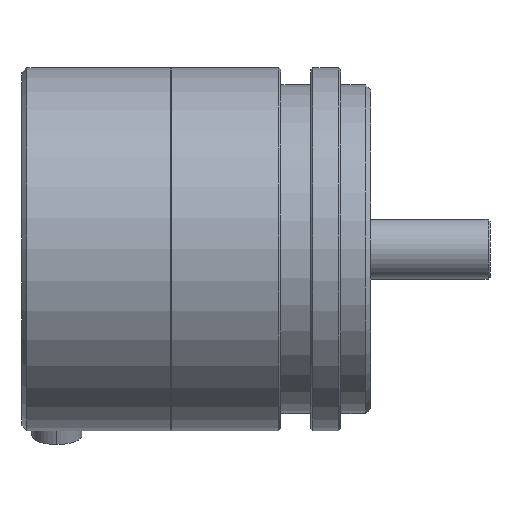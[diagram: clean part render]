
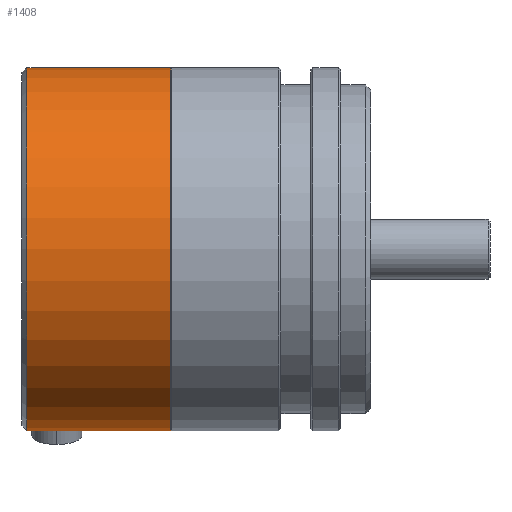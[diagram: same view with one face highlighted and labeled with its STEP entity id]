
A CAD part, left-side view. The second image highlights one B-rep face of the part: STEP entity #1408.
In plain terms, the highlighted cylindrical face has radius 18.25 mm (diameter 36.5 mm), a partial arc.
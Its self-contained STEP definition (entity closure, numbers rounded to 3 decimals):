
#43 = EDGE_CURVE ( 'NONE', #445, #1059, #1545, .T. ) ;
#274 = VECTOR ( 'NONE', #1264, 1000. ) ;
#285 = VECTOR ( 'NONE', #1129, 1000. ) ;
#432 = ORIENTED_EDGE ( 'NONE', *, *, #1757, .F. ) ;
#445 = VERTEX_POINT ( 'NONE', #2063 ) ;
#466 = LINE ( 'NONE', #607, #274 ) ;
#533 = EDGE_CURVE ( 'NONE', #651, #831, #1045, .T. ) ;
#542 = AXIS2_PLACEMENT_3D ( 'NONE', #996, #1497, #1955 ) ;
#581 = DIRECTION ( 'NONE',  ( 0., -1., 0. ) ) ;
#607 = CARTESIAN_POINT ( 'NONE',  ( 31.546, -11., 18.25 ) ) ;
#626 = AXIS2_PLACEMENT_3D ( 'NONE', #755, #581, #1090 ) ;
#651 = VERTEX_POINT ( 'NONE', #1926 ) ;
#755 = CARTESIAN_POINT ( 'NONE',  ( 31.546, 21.05, 0. ) ) ;
#831 = VERTEX_POINT ( 'NONE', #1224 ) ;
#858 = CARTESIAN_POINT ( 'NONE',  ( 31.546, 21.05, -18.25 ) ) ;
#957 = EDGE_CURVE ( 'NONE', #831, #1059, #1428, .T. ) ;
#958 = ORIENTED_EDGE ( 'NONE', *, *, #43, .F. ) ;
#996 = CARTESIAN_POINT ( 'NONE',  ( 31.546, -11., 0. ) ) ;
#1009 = EDGE_LOOP ( 'NONE', ( #432, #1651, #1710, #958 ) ) ;
#1045 = CIRCLE ( 'NONE', #1872, 18.25 ) ;
#1059 = VERTEX_POINT ( 'NONE', #858 ) ;
#1090 = DIRECTION ( 'NONE',  ( 0., 0., -1. ) ) ;
#1129 = DIRECTION ( 'NONE',  ( 0., -1., 0. ) ) ;
#1161 = CYLINDRICAL_SURFACE ( 'NONE', #542, 18.25 ) ;
#1224 = CARTESIAN_POINT ( 'NONE',  ( 31.546, 35.5, -18.25 ) ) ;
#1264 = DIRECTION ( 'NONE',  ( 0., -1., 0. ) ) ;
#1287 = CARTESIAN_POINT ( 'NONE',  ( 31.546, -11., -18.25 ) ) ;
#1368 = DIRECTION ( 'NONE',  ( 0., -1., 0. ) ) ;
#1408 = ADVANCED_FACE ( 'NONE', ( #1626 ), #1161, .T. ) ;
#1428 = LINE ( 'NONE', #1287, #285 ) ;
#1497 = DIRECTION ( 'NONE',  ( 0., -1., 0. ) ) ;
#1539 = DIRECTION ( 'NONE',  ( 0., 0., 1. ) ) ;
#1545 = CIRCLE ( 'NONE', #626, 18.25 ) ;
#1626 = FACE_OUTER_BOUND ( 'NONE', #1009, .T. ) ;
#1651 = ORIENTED_EDGE ( 'NONE', *, *, #533, .T. ) ;
#1696 = CARTESIAN_POINT ( 'NONE',  ( 31.546, 35.5, 0. ) ) ;
#1710 = ORIENTED_EDGE ( 'NONE', *, *, #957, .T. ) ;
#1757 = EDGE_CURVE ( 'NONE', #651, #445, #466, .T. ) ;
#1872 = AXIS2_PLACEMENT_3D ( 'NONE', #1696, #1368, #1539 ) ;
#1926 = CARTESIAN_POINT ( 'NONE',  ( 31.546, 35.5, 18.25 ) ) ;
#1955 = DIRECTION ( 'NONE',  ( 0., 0., -1. ) ) ;
#2063 = CARTESIAN_POINT ( 'NONE',  ( 31.546, 21.05, 18.25 ) ) ;
